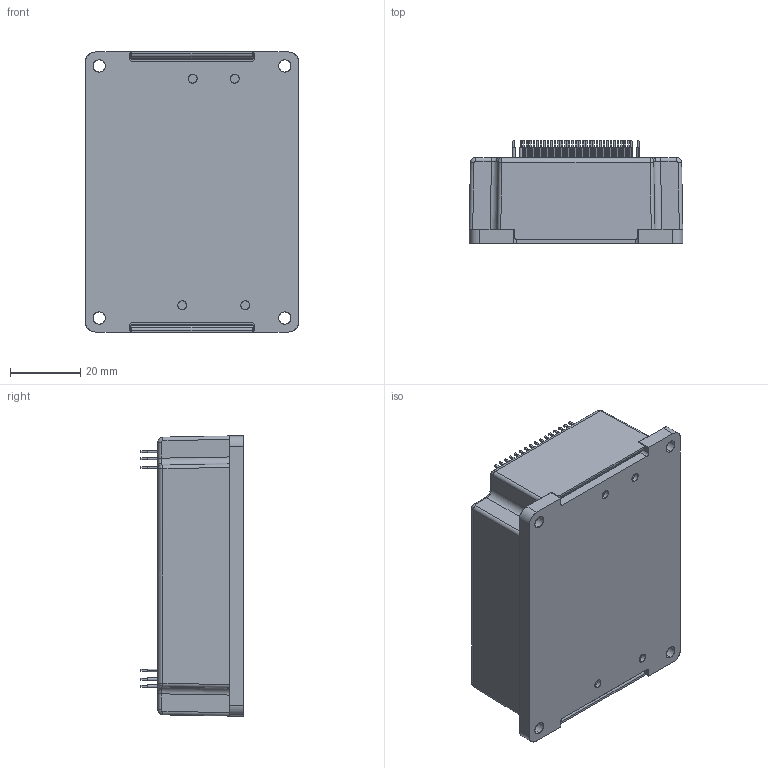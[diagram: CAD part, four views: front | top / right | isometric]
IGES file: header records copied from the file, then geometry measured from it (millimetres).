
Start section: SolidWorks IGES file using analytic representation for surfaces
Global section: file name: F:\ELMO\PRODUCTS\GUITAR\DRAWING\solid-parts\Guitar.IGS; native system: SolidWorks 2008; preprocessor: SolidWorks 2008; author: shlomo; date: 080415.082443; units: millimetre
Bounding box: 61 x 29.46 x 80.1 mm (x, y, z)
Surface area: 34463.7 mm2 (no closed solid volume)
Topology: 0 solids, 0 shells, 2739 faces, 18728 edges, 18720 vertices
Faces by surface type: bspline 2055, revolution 684
